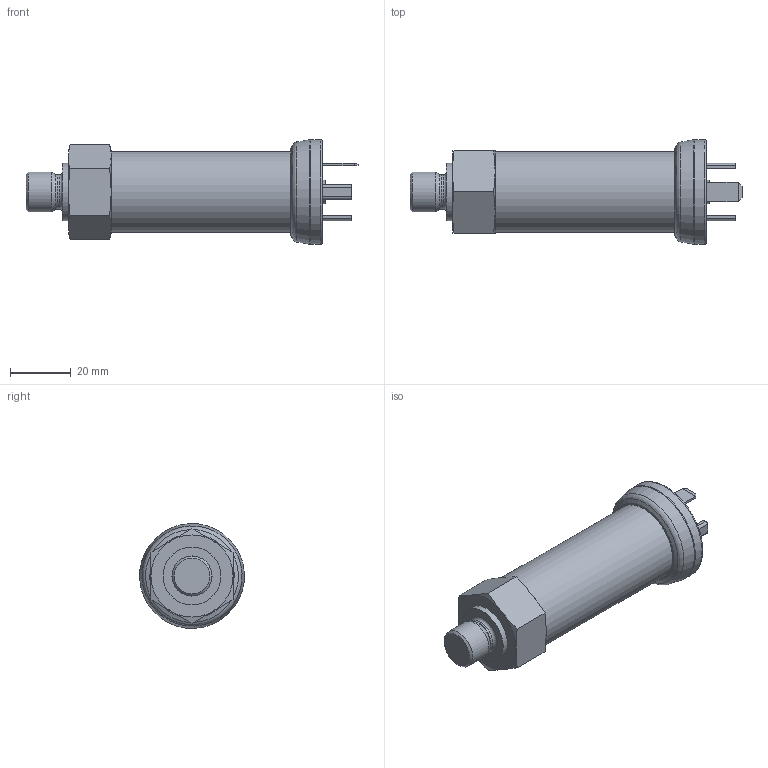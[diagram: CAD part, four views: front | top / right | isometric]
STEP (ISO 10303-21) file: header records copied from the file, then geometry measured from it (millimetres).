
FILE_DESCRIPTION(/* description */ (''),/* implementation_level */ '2;1');
FILE_NAME(/* name */ 'C:\daten\BDS inventor\12_DMP 331 with DSP\DMP331i-11x-xxxx-x-x-100-300-x-111.stp',/* time_stamp */ '2020-10-27T13:24:05+01:00',/* author */ ('CZ1067'),/* organization */ (''),/* preprocessor_version */ 'ST-DEVELOPER v16.5',/* originating_system */ 'Autodesk Inventor 2017',/* authorisation */ '');
FILE_SCHEMA (('AUTOMOTIVE_DESIGN { 1 0 10303 214 3 1 1 }'));
Length unit declared in the file: millimetre
Products named in the file (1): DMP331i-11x-xxxx-x-x-100-300-x-111
Bounding box: 109.21 x 34.45 x 34.45 mm (x, y, z)
Volume: 52986.5 mm3; surface area: 10324.4 mm2
Topology: 1 solids, 1 shells, 83 faces, 192 edges, 120 vertices
Faces by surface type: plane 49, cone 16, cylinder 12, torus 6
Full cylindrical faces by diameter (mm): 7.8 x1, 11.2 x1, 13.157 x1, 19 x1, 26.5 x1, 34.5 x1
Entity records: 2270 total; most frequent: CARTESIAN_POINT 422, DIRECTION 362, ORIENTED_EDGE 346, EDGE_CURVE 173, AXIS2_PLACEMENT_3D 129, VERTEX_POINT 117, EDGE_LOOP 108, LINE 104
